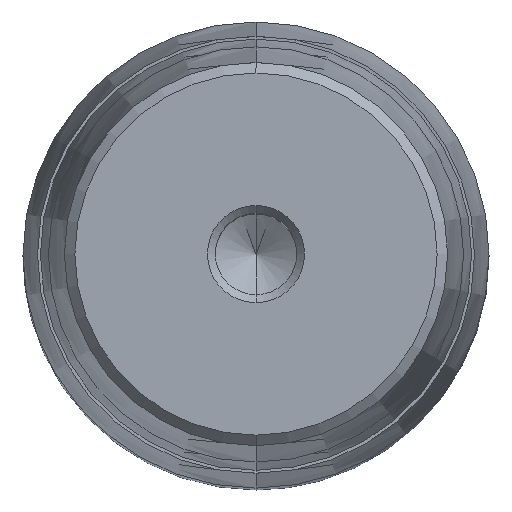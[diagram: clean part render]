
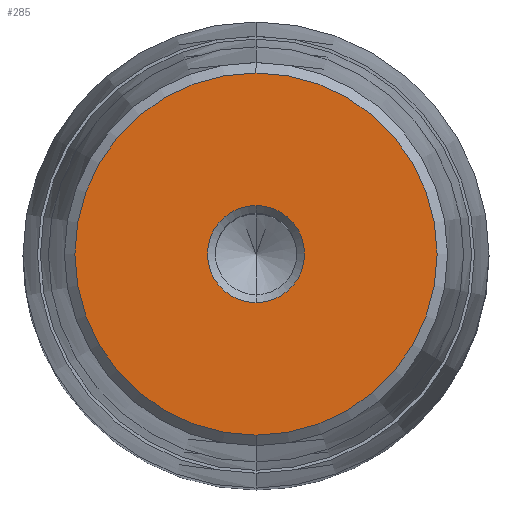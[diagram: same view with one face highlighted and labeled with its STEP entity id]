
A CAD part, top view. The second image highlights one B-rep face of the part: STEP entity #285.
In plain terms, the highlighted planar face has unit normal (0, 0, 1).
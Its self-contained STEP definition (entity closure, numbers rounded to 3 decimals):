
#164=CARTESIAN_POINT('Axis2P3D Location',(0.,0.,58.)) ;
#168=CARTESIAN_POINT('Vertex',(5.,0.,58.)) ;
#170=CARTESIAN_POINT('Vertex',(0.,-5.,58.)) ;
#173=CARTESIAN_POINT('Axis2P3D Location',(0.,0.,58.)) ;
#177=CARTESIAN_POINT('Vertex',(0.,5.,58.)) ;
#228=CARTESIAN_POINT('Axis2P3D Location',(0.,5.,58.)) ;
#233=CARTESIAN_POINT('Axis2P3D Location',(0.,0.,58.)) ;
#237=CARTESIAN_POINT('Vertex',(0.,18.65,58.)) ;
#239=CARTESIAN_POINT('Vertex',(18.65,0.,58.)) ;
#242=CARTESIAN_POINT('Axis2P3D Location',(0.,0.,58.)) ;
#246=CARTESIAN_POINT('Vertex',(-18.65,0.,58.)) ;
#249=CARTESIAN_POINT('Axis2P3D Location',(0.,0.,58.)) ;
#253=CARTESIAN_POINT('Vertex',(0.,-18.65,58.)) ;
#256=CARTESIAN_POINT('Axis2P3D Location',(0.,0.,58.)) ;
#267=CARTESIAN_POINT('Axis2P3D Location',(0.,0.,58.)) ;
#271=CARTESIAN_POINT('Vertex',(-5.,0.,58.)) ;
#274=CARTESIAN_POINT('Axis2P3D Location',(0.,0.,58.)) ;
#165=DIRECTION('Axis2P3D Direction',(0.,0.,1.)) ;
#174=DIRECTION('Axis2P3D Direction',(0.,0.,1.)) ;
#229=DIRECTION('Axis2P3D Direction',(-0.,0.,-1.)) ;
#230=DIRECTION('Axis2P3D XDirection',(0.,1.,0.)) ;
#234=DIRECTION('Axis2P3D Direction',(-0.,0.,-1.)) ;
#243=DIRECTION('Axis2P3D Direction',(-0.,0.,-1.)) ;
#250=DIRECTION('Axis2P3D Direction',(-0.,0.,-1.)) ;
#257=DIRECTION('Axis2P3D Direction',(-0.,0.,-1.)) ;
#268=DIRECTION('Axis2P3D Direction',(-0.,0.,-1.)) ;
#275=DIRECTION('Axis2P3D Direction',(-0.,0.,-1.)) ;
#166=AXIS2_PLACEMENT_3D('Circle Axis2P3D',#164,#165,$) ;
#175=AXIS2_PLACEMENT_3D('Circle Axis2P3D',#173,#174,$) ;
#231=AXIS2_PLACEMENT_3D('Plane Axis2P3D',#228,#229,#230) ;
#235=AXIS2_PLACEMENT_3D('Circle Axis2P3D',#233,#234,$) ;
#244=AXIS2_PLACEMENT_3D('Circle Axis2P3D',#242,#243,$) ;
#251=AXIS2_PLACEMENT_3D('Circle Axis2P3D',#249,#250,$) ;
#258=AXIS2_PLACEMENT_3D('Circle Axis2P3D',#256,#257,$) ;
#269=AXIS2_PLACEMENT_3D('Circle Axis2P3D',#267,#268,$) ;
#276=AXIS2_PLACEMENT_3D('Circle Axis2P3D',#274,#275,$) ;
#262=ORIENTED_EDGE('',*,*,#241,.F.) ;
#263=ORIENTED_EDGE('',*,*,#248,.F.) ;
#264=ORIENTED_EDGE('',*,*,#255,.F.) ;
#265=ORIENTED_EDGE('',*,*,#260,.F.) ;
#280=ORIENTED_EDGE('',*,*,#172,.T.) ;
#281=ORIENTED_EDGE('',*,*,#273,.T.) ;
#282=ORIENTED_EDGE('',*,*,#278,.T.) ;
#283=ORIENTED_EDGE('',*,*,#179,.T.) ;
#284=FACE_BOUND('',#279,.T.) ;
#285=ADVANCED_FACE('722-48x140x180',(#266,#284),#232,.F.) ;
#167=CIRCLE('generated circle',#166,5.) ;
#176=CIRCLE('generated circle',#175,5.) ;
#236=CIRCLE('generated circle',#235,18.65) ;
#245=CIRCLE('generated circle',#244,18.65) ;
#252=CIRCLE('generated circle',#251,18.65) ;
#259=CIRCLE('generated circle',#258,18.65) ;
#270=CIRCLE('generated circle',#269,5.) ;
#277=CIRCLE('generated circle',#276,5.) ;
#172=EDGE_CURVE('',#169,#171,#167,.F.) ;
#179=EDGE_CURVE('',#178,#169,#176,.F.) ;
#241=EDGE_CURVE('',#238,#240,#236,.T.) ;
#248=EDGE_CURVE('',#247,#238,#245,.T.) ;
#255=EDGE_CURVE('',#254,#247,#252,.T.) ;
#260=EDGE_CURVE('',#240,#254,#259,.T.) ;
#273=EDGE_CURVE('',#171,#272,#270,.T.) ;
#278=EDGE_CURVE('',#272,#178,#277,.T.) ;
#261=EDGE_LOOP('',(#262,#263,#264,#265)) ;
#279=EDGE_LOOP('',(#280,#281,#282,#283)) ;
#266=FACE_OUTER_BOUND('',#261,.T.) ;
#232=PLANE('Plane',#231) ;
#169=VERTEX_POINT('',#168) ;
#171=VERTEX_POINT('',#170) ;
#178=VERTEX_POINT('',#177) ;
#238=VERTEX_POINT('',#237) ;
#240=VERTEX_POINT('',#239) ;
#247=VERTEX_POINT('',#246) ;
#254=VERTEX_POINT('',#253) ;
#272=VERTEX_POINT('',#271) ;
